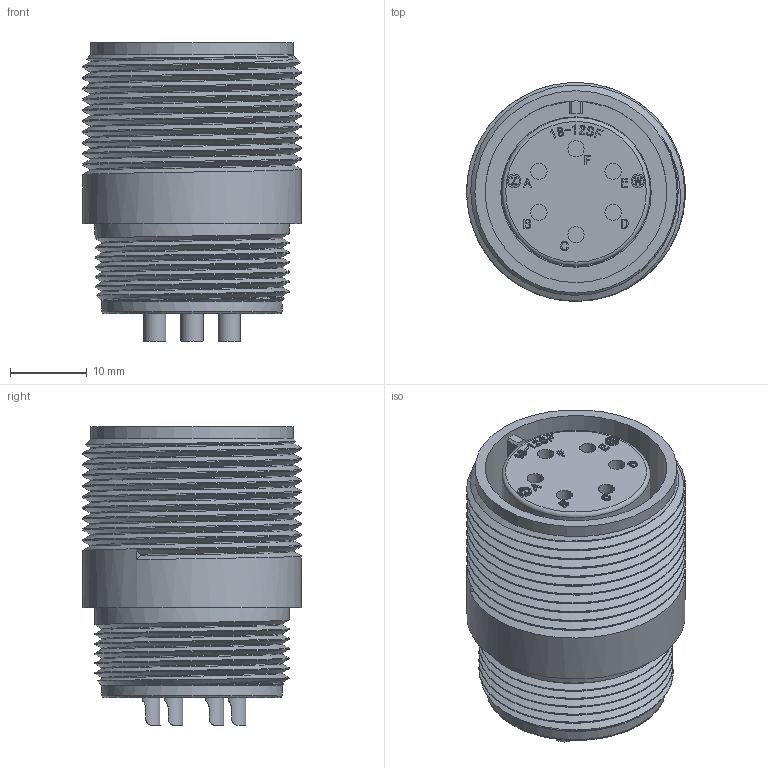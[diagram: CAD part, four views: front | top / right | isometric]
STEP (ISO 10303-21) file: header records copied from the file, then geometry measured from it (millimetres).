
FILE_DESCRIPTION (( 'STEP AP203' ), '1' );
FILE_NAME ('DMS3101A18-12S(D263).STEP', '2022-01-31T00:20:11', ( '' ), ( '' ), 'SwSTEP 2.0', 'SolidWorks 2018', '' );
FILE_SCHEMA (( 'CONFIG_CONTROL_DESIGN' ));
Length unit declared in the file: millimetre
Products named in the file (1): DMS3101A18-12S(D263)
Bounding box: 28.48 x 28.48 x 38.92 mm (x, y, z)
Volume: 15838.7 mm3; surface area: 9730.6 mm2
Topology: 1 solids, 1 shells, 691 faces, 1855 edges, 1237 vertices
Faces by surface type: plane 358, bspline 248, cylinder 80, torus 3, cone 2
Full cylindrical faces by diameter (mm): 1.4 x2, 1.8 x2, 2.11 x6, 17.45 x1, 19.33 x1, 19.59 x1, 21.08 x1, 23.5 x1, 23.68 x1, 25.31 x6, 26.35 x1, 28.48 x10
Entity records: 30529 total; most frequent: CARTESIAN_POINT 15497, ORIENTED_EDGE 3544, DIRECTION 2174, EDGE_CURVE 1772, VERTEX_POINT 1193, LINE 1096, VECTOR 1096, EDGE_LOOP 769
